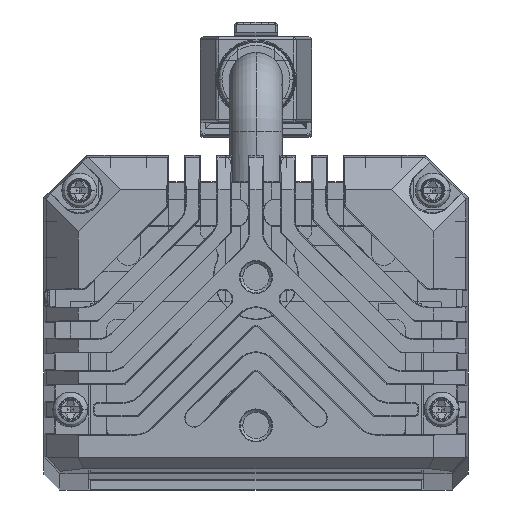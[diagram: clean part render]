
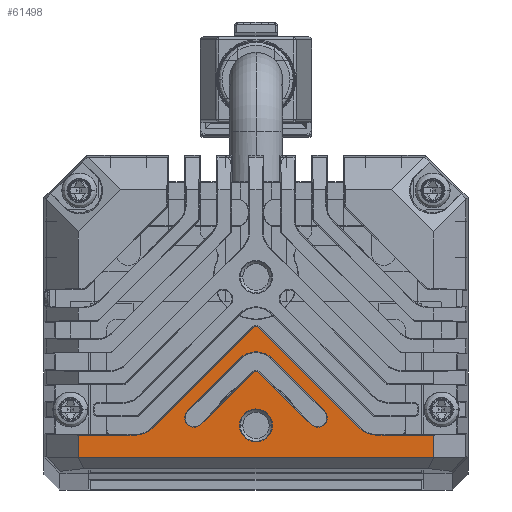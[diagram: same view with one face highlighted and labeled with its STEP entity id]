
A CAD part, top view. The second image highlights one B-rep face of the part: STEP entity #61498.
In plain terms, the highlighted planar face has unit normal (0, 0, 1).
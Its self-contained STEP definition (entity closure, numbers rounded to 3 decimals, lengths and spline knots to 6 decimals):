
#19605=DIRECTION('',(1.,0.,0.));
#19606=VECTOR('',#19605,0.005438);
#19607=CARTESIAN_POINT('',(-0.01675,-0.026407,0.774));
#19608=LINE('',#19607,#19606);
#19669=DIRECTION('',(0.,1.,0.));
#19670=VECTOR('',#19669,0.002093);
#19671=CARTESIAN_POINT('',(-0.01675,-0.0285,0.774));
#19672=LINE('',#19671,#19670);
#19673=CARTESIAN_POINT('',(0.,-0.0255,0.774));
#19674=DIRECTION('',(0.,0.,1.));
#19675=DIRECTION('',(-1.,0.,0.));
#19676=AXIS2_PLACEMENT_3D('',#19673,#19674,#19675);
#19678=CARTESIAN_POINT('',(0.,-0.0255,0.774));
#19679=DIRECTION('',(0.,0.,1.));
#19680=DIRECTION('',(1.,0.,0.));
#19681=AXIS2_PLACEMENT_3D('',#19678,#19679,#19680);
#19683=DIRECTION('',(-0.707,-0.707,0.));
#19684=VECTOR('',#19683,0.006997);
#19685=CARTESIAN_POINT('',(-0.000242,-0.020473,0.774));
#19686=LINE('',#19685,#19684);
#19687=CARTESIAN_POINT('',(0.,-0.020716,0.774));
#19688=DIRECTION('',(0.,0.,1.));
#19689=DIRECTION('',(0.707,0.707,0.));
#19690=AXIS2_PLACEMENT_3D('',#19687,#19688,#19689);
#19692=DIRECTION('',(-0.707,0.707,0.));
#19693=VECTOR('',#19692,0.006997);
#19694=CARTESIAN_POINT('',(0.00519,-0.025421,0.774));
#19695=LINE('',#19694,#19693);
#19696=CARTESIAN_POINT('',(0.005831,-0.02478,0.774));
#19697=DIRECTION('',(0.,0.,-1.));
#19698=DIRECTION('',(0.707,0.707,0.));
#19699=AXIS2_PLACEMENT_3D('',#19696,#19697,#19698);
#19701=DIRECTION('',(0.707,-0.707,0.));
#19702=VECTOR('',#19701,0.006997);
#19703=CARTESIAN_POINT('',(0.001525,-0.019191,0.774));
#19704=LINE('',#19703,#19702);
#19705=CARTESIAN_POINT('',(0.,-0.020716,0.774));
#19706=DIRECTION('',(0.,0.,-1.));
#19707=DIRECTION('',(-0.707,0.707,0.));
#19708=AXIS2_PLACEMENT_3D('',#19705,#19706,#19707);
#19710=DIRECTION('',(0.707,0.707,0.));
#19711=VECTOR('',#19710,0.006997);
#19712=CARTESIAN_POINT('',(-0.006473,-0.024138,0.774));
#19713=LINE('',#19712,#19711);
#19714=CARTESIAN_POINT('',(-0.005831,-0.02478,0.774));
#19715=DIRECTION('',(0.,0.,1.));
#19716=DIRECTION('',(-0.707,0.707,0.));
#19717=AXIS2_PLACEMENT_3D('',#19714,#19715,#19716);
#19719=DIRECTION('',(-0.707,-0.707,0.));
#19720=VECTOR('',#19719,0.013498);
#19721=CARTESIAN_POINT('',(-0.000242,-0.016231,0.774));
#19722=LINE('',#19721,#19720);
#19723=CARTESIAN_POINT('',(0.,-0.016473,0.774));
#19724=DIRECTION('',(0.,0.,1.));
#19725=DIRECTION('',(0.707,0.707,0.));
#19726=AXIS2_PLACEMENT_3D('',#19723,#19724,#19725);
#19728=DIRECTION('',(-0.707,0.707,0.));
#19729=VECTOR('',#19728,0.013498);
#19730=CARTESIAN_POINT('',(0.009787,-0.025775,0.774));
#19731=LINE('',#19730,#19729);
#19732=CARTESIAN_POINT('',(0.011312,-0.02425,0.774));
#19733=DIRECTION('',(0.,0.,-1.));
#19734=DIRECTION('',(0.,-1.,0.));
#19735=AXIS2_PLACEMENT_3D('',#19732,#19733,#19734);
#19737=CARTESIAN_POINT('',(-0.011312,-0.02425,0.774));
#19738=DIRECTION('',(0.,0.,-1.));
#19739=DIRECTION('',(0.707,-0.707,0.));
#19740=AXIS2_PLACEMENT_3D('',#19737,#19738,#19739);
#19889=DIRECTION('',(1.,0.,0.));
#19890=VECTOR('',#19889,0.005438);
#19891=CARTESIAN_POINT('',(0.011312,-0.026407,0.774));
#19892=LINE('',#19891,#19890);
#20813=DIRECTION('',(-1.,0.,0.));
#20814=VECTOR('',#20813,0.0335);
#20815=CARTESIAN_POINT('',(0.01675,-0.0285,0.774));
#20816=LINE('',#20815,#20814);
#20889=DIRECTION('',(0.,-1.,0.));
#20890=VECTOR('',#20889,0.002093);
#20891=CARTESIAN_POINT('',(0.01675,-0.026407,0.774));
#20892=LINE('',#20891,#20890);
#25494=CARTESIAN_POINT('',(0.000242,-0.016231,0.774));
#25495=CARTESIAN_POINT('',(-0.000242,-0.016231,0.774));
#25496=VERTEX_POINT('',#25494);
#25497=VERTEX_POINT('',#25495);
#25498=CARTESIAN_POINT('',(0.009787,-0.025775,0.774));
#25499=VERTEX_POINT('',#25498);
#25500=CARTESIAN_POINT('',(0.011312,-0.026407,0.774));
#25501=VERTEX_POINT('',#25500);
#25502=CARTESIAN_POINT('',(0.01675,-0.026407,0.774));
#25503=VERTEX_POINT('',#25502);
#25504=CARTESIAN_POINT('',(0.01675,-0.0285,0.774));
#25505=VERTEX_POINT('',#25504);
#25506=CARTESIAN_POINT('',(-0.01675,-0.0285,0.774));
#25507=VERTEX_POINT('',#25506);
#25508=CARTESIAN_POINT('',(-0.01675,-0.026407,0.774));
#25509=VERTEX_POINT('',#25508);
#25510=CARTESIAN_POINT('',(-0.011312,-0.026407,0.774));
#25511=VERTEX_POINT('',#25510);
#25512=CARTESIAN_POINT('',(-0.009787,-0.025775,0.774));
#25513=VERTEX_POINT('',#25512);
#25514=CARTESIAN_POINT('',(0.000242,-0.020473,0.774));
#25515=CARTESIAN_POINT('',(-0.000242,-0.020473,0.774));
#25516=VERTEX_POINT('',#25514);
#25517=VERTEX_POINT('',#25515);
#25518=CARTESIAN_POINT('',(0.00519,-0.025421,0.774));
#25519=VERTEX_POINT('',#25518);
#25520=CARTESIAN_POINT('',(0.006473,-0.024138,0.774));
#25521=VERTEX_POINT('',#25520);
#25522=CARTESIAN_POINT('',(0.001525,-0.019191,0.774));
#25523=VERTEX_POINT('',#25522);
#25524=CARTESIAN_POINT('',(-0.001525,-0.019191,0.774));
#25525=VERTEX_POINT('',#25524);
#25526=CARTESIAN_POINT('',(-0.006473,-0.024138,0.774));
#25527=VERTEX_POINT('',#25526);
#25528=CARTESIAN_POINT('',(-0.00519,-0.025421,0.774));
#25529=VERTEX_POINT('',#25528);
#26387=CARTESIAN_POINT('',(0.00155,-0.0255,0.774));
#26389=VERTEX_POINT('',#26387);
#26392=CARTESIAN_POINT('',(-0.00155,-0.0255,0.774));
#26394=VERTEX_POINT('',#26392);
#61449=CARTESIAN_POINT('',(0.,-0.015,0.774));
#61450=DIRECTION('',(0.,0.,1.));
#61451=DIRECTION('',(1.,0.,0.));
#61452=AXIS2_PLACEMENT_3D('',#61449,#61450,#61451);
#61453=PLANE('',#61452);
#61455=ORIENTED_EDGE('',*,*,#61454,.F.);
#61457=ORIENTED_EDGE('',*,*,#61456,.F.);
#61459=ORIENTED_EDGE('',*,*,#61458,.F.);
#61461=ORIENTED_EDGE('',*,*,#61460,.F.);
#61463=ORIENTED_EDGE('',*,*,#61462,.T.);
#61465=ORIENTED_EDGE('',*,*,#61464,.T.);
#61467=ORIENTED_EDGE('',*,*,#61466,.T.);
#61468=ORIENTED_EDGE('',*,*,#61433,.T.);
#61469=ORIENTED_EDGE('',*,*,#61312,.T.);
#61471=ORIENTED_EDGE('',*,*,#61470,.F.);
#61472=EDGE_LOOP('',(#61455,#61457,#61459,#61461,#61463,#61465,#61467,#61468,
#61469,#61471));
#61473=FACE_OUTER_BOUND('',#61472,.F.);
#61475=ORIENTED_EDGE('',*,*,#61474,.F.);
#61477=ORIENTED_EDGE('',*,*,#61476,.F.);
#61479=ORIENTED_EDGE('',*,*,#61478,.F.);
#61481=ORIENTED_EDGE('',*,*,#61480,.F.);
#61483=ORIENTED_EDGE('',*,*,#61482,.F.);
#61485=ORIENTED_EDGE('',*,*,#61484,.F.);
#61487=ORIENTED_EDGE('',*,*,#61486,.F.);
#61489=ORIENTED_EDGE('',*,*,#61488,.T.);
#61490=EDGE_LOOP('',(#61475,#61477,#61479,#61481,#61483,#61485,#61487,#61489));
#61491=FACE_BOUND('',#61490,.F.);
#61493=ORIENTED_EDGE('',*,*,#61492,.T.);
#61495=ORIENTED_EDGE('',*,*,#61494,.T.);
#61496=EDGE_LOOP('',(#61493,#61495));
#61497=FACE_BOUND('',#61496,.F.);
#19677=CIRCLE('',#19676,0.00155);
#19682=CIRCLE('',#19681,0.00155);
#19691=CIRCLE('',#19690,0.000343);
#19700=CIRCLE('',#19699,0.000907);
#19709=CIRCLE('',#19708,0.002157);
#19718=CIRCLE('',#19717,0.000907);
#19727=CIRCLE('',#19726,0.000343);
#19736=CIRCLE('',#19735,0.002157);
#19741=CIRCLE('',#19740,0.002157);
#61312=EDGE_CURVE('',#25509,#25511,#19608,.T.);
#61433=EDGE_CURVE('',#25507,#25509,#19672,.T.);
#61454=EDGE_CURVE('',#25497,#25513,#19722,.T.);
#61456=EDGE_CURVE('',#25496,#25497,#19727,.T.);
#61458=EDGE_CURVE('',#25499,#25496,#19731,.T.);
#61460=EDGE_CURVE('',#25501,#25499,#19736,.T.);
#61462=EDGE_CURVE('',#25501,#25503,#19892,.T.);
#61464=EDGE_CURVE('',#25503,#25505,#20892,.T.);
#61466=EDGE_CURVE('',#25505,#25507,#20816,.T.);
#61470=EDGE_CURVE('',#25513,#25511,#19741,.T.);
#61474=EDGE_CURVE('',#25517,#25529,#19686,.T.);
#61476=EDGE_CURVE('',#25516,#25517,#19691,.T.);
#61478=EDGE_CURVE('',#25519,#25516,#19695,.T.);
#61480=EDGE_CURVE('',#25521,#25519,#19700,.T.);
#61482=EDGE_CURVE('',#25523,#25521,#19704,.T.);
#61484=EDGE_CURVE('',#25525,#25523,#19709,.T.);
#61486=EDGE_CURVE('',#25527,#25525,#19713,.T.);
#61488=EDGE_CURVE('',#25527,#25529,#19718,.T.);
#61492=EDGE_CURVE('',#26394,#26389,#19677,.T.);
#61494=EDGE_CURVE('',#26389,#26394,#19682,.T.);
#61498=ADVANCED_FACE('',(#61473,#61491,#61497),#61453,.T.);
